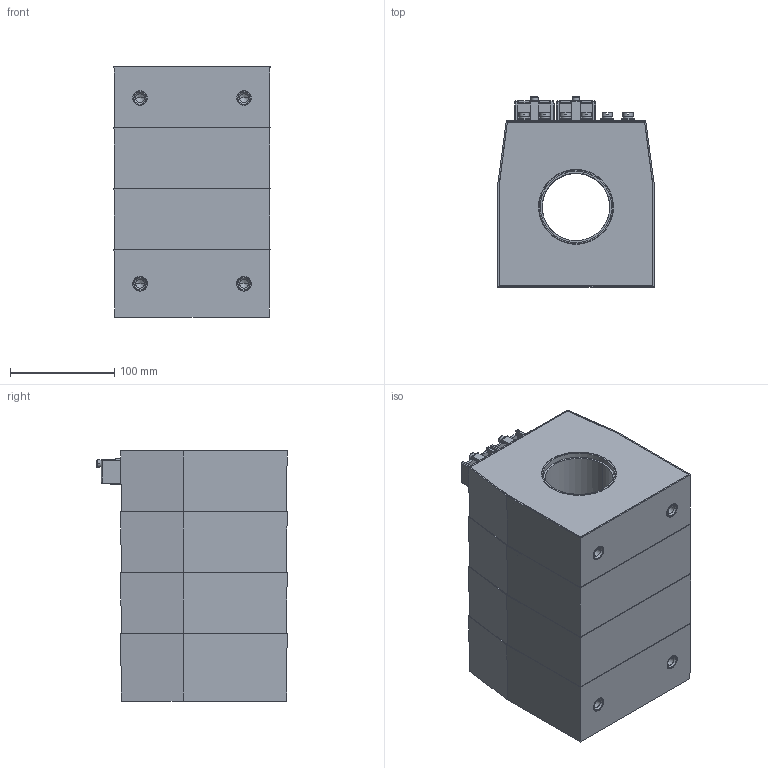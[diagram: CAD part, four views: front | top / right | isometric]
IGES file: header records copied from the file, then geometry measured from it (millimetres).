
Start section: IGES file generated from Kompas f.0 for Windows drawing by the IGES translator from Ascon Ltd., translator version IGESOUT-5.1.
Global section: file name: C:\Ðàáîòà\Èçâåùåíèÿ 5\ÒØÏ-ÍÒÇ-0.66-61...,71...,81... (ñáîðíûé)\Âåðñèÿ îò 21.05.24\3D ìîäåëü\ÒØÏ-ÍÒÇ-0,66-84À\ÒØÏ-ÍÒÇ-0,66-84À (65 ìì, 4-é ãàáàðèò).igs; native system: Kompas( 32 bit ) for Windows; preprocessor: 1.0; author: 123; organization: Microsoft; date: -17750727:094331; units: millimetre
Bounding box: 150 x 182.93 x 240.5 mm (x, y, z)
Volume: 814219.1 mm3; surface area: 550736.8 mm2
Topology: 43 solids, 43 shells, 900 faces, 2105 edges, 1303 vertices
Faces by surface type: revolution 506, bspline 394
